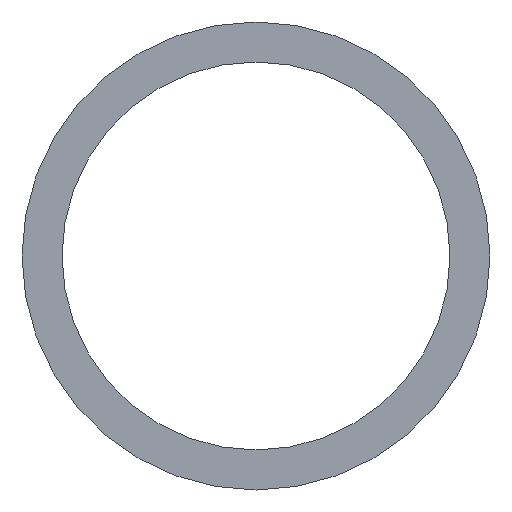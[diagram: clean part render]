
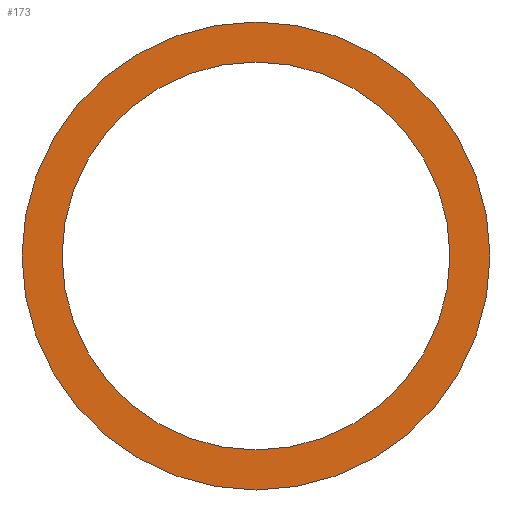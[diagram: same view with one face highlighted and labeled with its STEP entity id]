
A CAD part, front view. The second image highlights one B-rep face of the part: STEP entity #173.
In plain terms, the highlighted planar face has unit normal (0, -1, 0).
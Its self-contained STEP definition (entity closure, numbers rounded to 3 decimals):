
#2 = VERTEX_POINT ( 'NONE', #8 ) ;
#6 = ORIENTED_EDGE ( 'NONE', *, *, #189, .T. ) ;
#7 = AXIS2_PLACEMENT_3D ( 'NONE', #33, #146, #96 ) ;
#8 = CARTESIAN_POINT ( 'NONE',  ( 11020., 1143., 3007. ) ) ;
#13 = CARTESIAN_POINT ( 'NONE',  ( 11020., 1143., 2984.7 ) ) ;
#17 = CARTESIAN_POINT ( 'NONE',  ( 11020., 1143., 2995.85 ) ) ;
#18 = PLANE ( 'NONE',  #7 ) ;
#21 = EDGE_LOOP ( 'NONE', ( #55, #37 ) ) ;
#23 = ORIENTED_EDGE ( 'NONE', *, *, #117, .T. ) ;
#28 = AXIS2_PLACEMENT_3D ( 'NONE', #17, #147, #214 ) ;
#33 = CARTESIAN_POINT ( 'NONE',  ( 11020., 1143., 3495.85 ) ) ;
#37 = ORIENTED_EDGE ( 'NONE', *, *, #82, .F. ) ;
#40 = DIRECTION ( 'NONE',  ( 0., -1., 0. ) ) ;
#51 = CARTESIAN_POINT ( 'NONE',  ( 11020., 1143., 3009.3 ) ) ;
#53 = VERTEX_POINT ( 'NONE', #90 ) ;
#55 = ORIENTED_EDGE ( 'NONE', *, *, #98, .F. ) ;
#56 = CIRCLE ( 'NONE', #140, 13.45 ) ;
#60 = DIRECTION ( 'NONE',  ( 0., 0., -1. ) ) ;
#63 = FACE_OUTER_BOUND ( 'NONE', #153, .T. ) ;
#69 = DIRECTION ( 'NONE',  ( 0., -1., 0. ) ) ;
#70 = CIRCLE ( 'NONE', #191, 11.15 ) ;
#71 = VERTEX_POINT ( 'NONE', #13 ) ;
#82 = EDGE_CURVE ( 'NONE', #71, #2, #168, .T. ) ;
#90 = CARTESIAN_POINT ( 'NONE',  ( 11020., 1143., 2982.4 ) ) ;
#96 = DIRECTION ( 'NONE',  ( 0., 0., -1. ) ) ;
#97 = AXIS2_PLACEMENT_3D ( 'NONE', #143, #207, #60 ) ;
#98 = EDGE_CURVE ( 'NONE', #2, #71, #70, .T. ) ;
#105 = CARTESIAN_POINT ( 'NONE',  ( 11020., 1143., 2995.85 ) ) ;
#117 = EDGE_CURVE ( 'NONE', #169, #53, #121, .T. ) ;
#121 = CIRCLE ( 'NONE', #28, 13.45 ) ;
#140 = AXIS2_PLACEMENT_3D ( 'NONE', #211, #69, #179 ) ;
#143 = CARTESIAN_POINT ( 'NONE',  ( 11020., 1143., 2995.85 ) ) ;
#146 = DIRECTION ( 'NONE',  ( 0., -1., 0. ) ) ;
#147 = DIRECTION ( 'NONE',  ( 0., -1., 0. ) ) ;
#153 = EDGE_LOOP ( 'NONE', ( #23, #6 ) ) ;
#168 = CIRCLE ( 'NONE', #97, 11.15 ) ;
#169 = VERTEX_POINT ( 'NONE', #51 ) ;
#173 = ADVANCED_FACE ( 'NONE', ( #182, #63 ), #18, .T. ) ;
#179 = DIRECTION ( 'NONE',  ( 0., 0., -1. ) ) ;
#182 = FACE_BOUND ( 'NONE', #21, .T. ) ;
#189 = EDGE_CURVE ( 'NONE', #53, #169, #56, .T. ) ;
#191 = AXIS2_PLACEMENT_3D ( 'NONE', #105, #40, #209 ) ;
#207 = DIRECTION ( 'NONE',  ( 0., -1., 0. ) ) ;
#209 = DIRECTION ( 'NONE',  ( 0., 0., -1. ) ) ;
#211 = CARTESIAN_POINT ( 'NONE',  ( 11020., 1143., 2995.85 ) ) ;
#214 = DIRECTION ( 'NONE',  ( 0., 0., -1. ) ) ;
